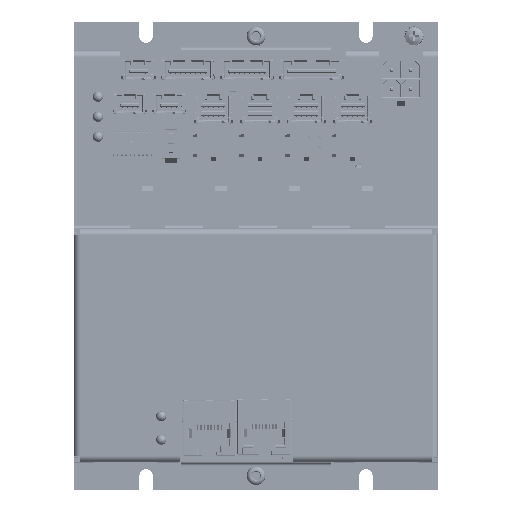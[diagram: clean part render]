
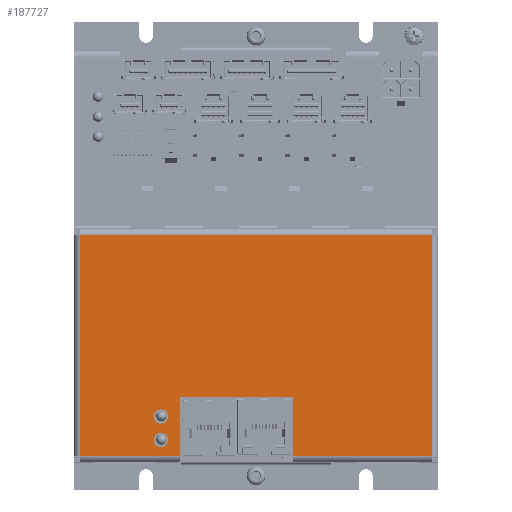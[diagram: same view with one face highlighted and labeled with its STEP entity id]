
A CAD part, top view. The second image highlights one B-rep face of the part: STEP entity #187727.
In plain terms, the highlighted planar face has unit normal (0, 0, 1).
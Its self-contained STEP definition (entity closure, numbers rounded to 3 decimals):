
#5597=FACE_BOUND('',#32424,.T.);
#5598=FACE_BOUND('',#32425,.T.);
#12593=PLANE('',#202111);
#21970=FACE_OUTER_BOUND('',#32423,.T.);
#32423=EDGE_LOOP('',(#174513,#174514,#174515,#174516,#174517,#174518,#174519,
#174520));
#32424=EDGE_LOOP('',(#174521));
#32425=EDGE_LOOP('',(#174522));
#53331=LINE('',#323521,#74978);
#53336=LINE('',#323533,#74983);
#53342=LINE('',#323547,#74989);
#53343=LINE('',#323550,#74990);
#53346=LINE('',#323559,#74993);
#53989=LINE('',#325198,#75636);
#54046=LINE('',#325409,#75693);
#54058=LINE('',#325440,#75705);
#74978=VECTOR('',#248147,10.);
#74983=VECTOR('',#248156,10.);
#74989=VECTOR('',#248170,10.);
#74990=VECTOR('',#248173,10.);
#74993=VECTOR('',#248182,10.);
#75636=VECTOR('',#249673,10.);
#75693=VECTOR('',#249850,10.);
#75705=VECTOR('',#249886,10.);
#79324=CIRCLE('',#201569,2.15);
#79326=CIRCLE('',#201572,2.15);
#95824=VERTEX_POINT('',#323505);
#95826=VERTEX_POINT('',#323511);
#95828=VERTEX_POINT('',#323517);
#95830=VERTEX_POINT('',#323520);
#95835=VERTEX_POINT('',#323532);
#95838=VERTEX_POINT('',#323542);
#95840=VERTEX_POINT('',#323549);
#95843=VERTEX_POINT('',#323557);
#96415=VERTEX_POINT('',#325196);
#96509=VERTEX_POINT('',#325407);
#121676=EDGE_CURVE('',#95824,#95824,#79324,.T.);
#121679=EDGE_CURVE('',#95826,#95826,#79326,.T.);
#121683=EDGE_CURVE('',#95830,#95828,#53331,.T.);
#121689=EDGE_CURVE('',#95835,#95830,#53336,.T.);
#121697=EDGE_CURVE('',#95838,#95835,#53342,.T.);
#121698=EDGE_CURVE('',#95840,#95838,#53343,.T.);
#121703=EDGE_CURVE('',#95828,#95843,#53346,.T.);
#122529=EDGE_CURVE('',#95843,#96415,#53989,.T.);
#122636=EDGE_CURVE('',#96415,#96509,#54046,.T.);
#122652=EDGE_CURVE('',#96509,#95840,#54058,.T.);
#174513=ORIENTED_EDGE('',*,*,#121683,.T.);
#174514=ORIENTED_EDGE('',*,*,#121703,.T.);
#174515=ORIENTED_EDGE('',*,*,#122529,.T.);
#174516=ORIENTED_EDGE('',*,*,#122636,.T.);
#174517=ORIENTED_EDGE('',*,*,#122652,.T.);
#174518=ORIENTED_EDGE('',*,*,#121698,.T.);
#174519=ORIENTED_EDGE('',*,*,#121697,.T.);
#174520=ORIENTED_EDGE('',*,*,#121689,.T.);
#174521=ORIENTED_EDGE('',*,*,#121676,.T.);
#174522=ORIENTED_EDGE('',*,*,#121679,.T.);
#187727=ADVANCED_FACE('',(#21970,#5597,#5598),#12593,.T.);
#201569=AXIS2_PLACEMENT_3D('',#323506,#248131,#248132);
#201572=AXIS2_PLACEMENT_3D('',#323512,#248138,#248139);
#202111=AXIS2_PLACEMENT_3D('',#325531,#249971,#249972);
#248131=DIRECTION('center_axis',(0.,0.,-1.));
#248132=DIRECTION('ref_axis',(-1.,0.,0.));
#248138=DIRECTION('center_axis',(0.,0.,-1.));
#248139=DIRECTION('ref_axis',(-1.,0.,0.));
#248147=DIRECTION('',(-1.,0.,0.));
#248156=DIRECTION('',(0.,-1.,0.));
#248170=DIRECTION('',(1.,0.,0.));
#248173=DIRECTION('',(0.,-1.,0.));
#248182=DIRECTION('',(0.,-1.,0.));
#249673=DIRECTION('',(1.,0.,0.));
#249850=DIRECTION('',(0.,1.,0.));
#249886=DIRECTION('',(-1.,0.,0.));
#249971=DIRECTION('center_axis',(0.,0.,1.));
#249972=DIRECTION('ref_axis',(1.,0.,0.));
#323505=CARTESIAN_POINT('',(-17.1,28.569,1.));
#323506=CARTESIAN_POINT('Origin',(-19.25,28.569,1.));
#323511=CARTESIAN_POINT('',(-24.1,28.569,1.));
#323512=CARTESIAN_POINT('Origin',(-26.25,28.569,1.));
#323517=CARTESIAN_POINT('',(-31.,-11.252,1.));
#323520=CARTESIAN_POINT('',(-13.414,-11.252,1.));
#323521=CARTESIAN_POINT('',(-5.645,-11.252,1.));
#323532=CARTESIAN_POINT('',(-13.414,22.815,1.));
#323533=CARTESIAN_POINT('',(-13.414,11.407,1.));
#323542=CARTESIAN_POINT('',(-31.,22.815,1.));
#323547=CARTESIAN_POINT('',(-16.12,22.815,1.));
#323549=CARTESIAN_POINT('',(-31.,52.75,1.));
#323550=CARTESIAN_POINT('',(-31.,-27.375,1.));
#323557=CARTESIAN_POINT('',(-31.,-52.75,1.));
#323559=CARTESIAN_POINT('',(-31.,-27.375,1.));
#325196=CARTESIAN_POINT('',(35.25,-52.75,1.));
#325198=CARTESIAN_POINT('',(18.688,-52.75,1.));
#325407=CARTESIAN_POINT('',(35.25,52.75,1.));
#325409=CARTESIAN_POINT('',(35.25,27.375,1.));
#325440=CARTESIAN_POINT('',(-14.438,52.75,1.));
#325531=CARTESIAN_POINT('Origin',(2.125,0.,
1.));
